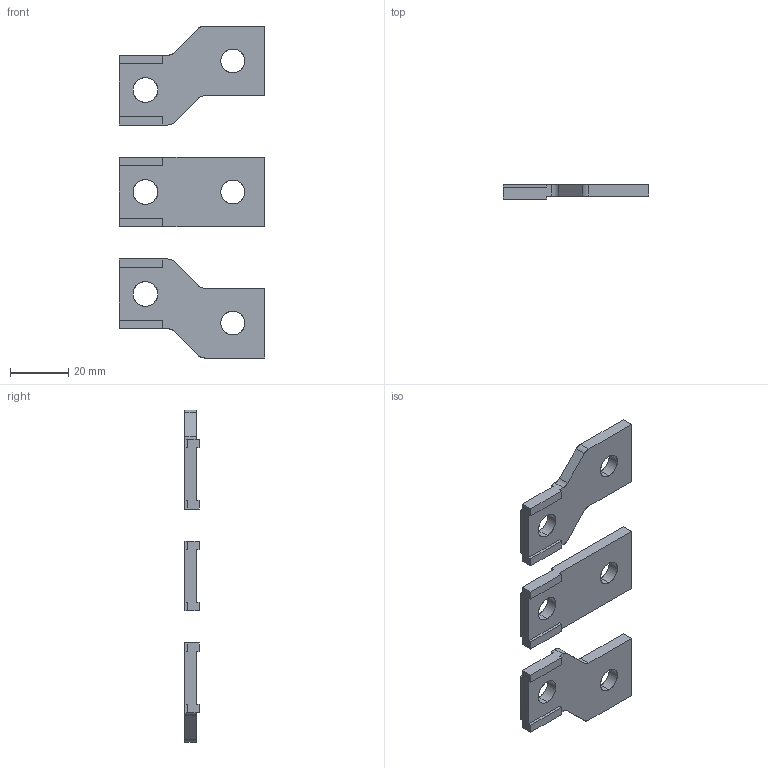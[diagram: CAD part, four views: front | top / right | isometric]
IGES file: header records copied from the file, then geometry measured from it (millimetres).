
Start section: SolidWorks IGES file using analytic representation for surfaces
Global section: file name: \\Brjgs100\DFSWEG\GROUPS\BR_SC_JGS_WA_TECNICO\ENG\Usuarios\Rodrigob\conversão\Disjuntor de Caixa Moldada\Produto\Acessorios ACW\BE ACW250\BE ACW250.IGS; native system: SolidWorks 2018; preprocessor: SolidWorks 2018; author: rodrigob; date: 211110.093329; units: millimetre
Bounding box: 50 x 5 x 114 mm (x, y, z)
Surface area: 9226.4 mm2 (no closed solid volume)
Topology: 0 solids, 0 shells, 82 faces, 864 edges, 864 vertices
Faces by surface type: bspline 62, revolution 20
